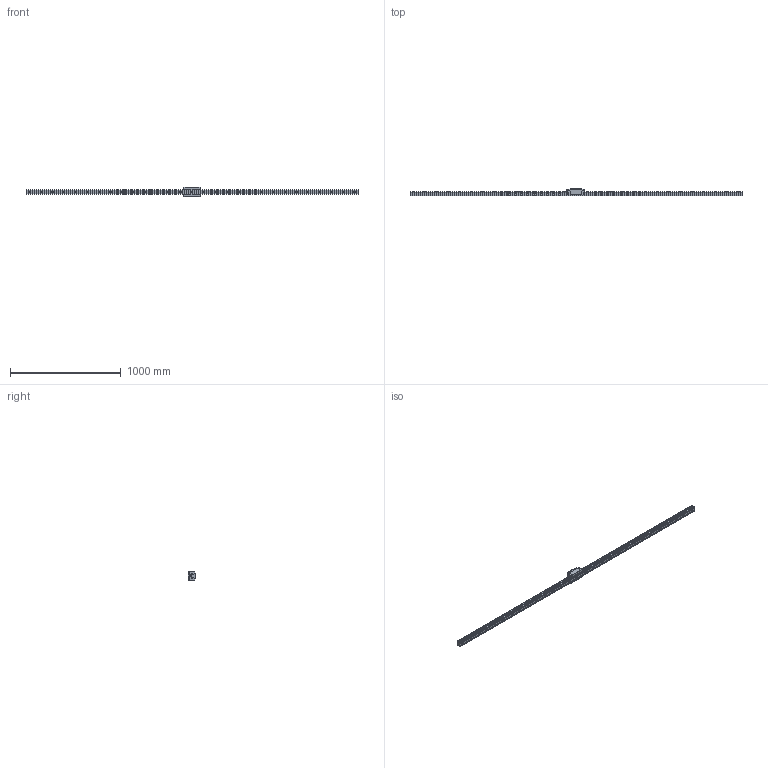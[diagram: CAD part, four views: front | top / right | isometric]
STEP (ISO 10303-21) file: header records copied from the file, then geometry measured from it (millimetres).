
FILE_DESCRIPTION(/* description */ ('STEP AP214'),/* implementation_level */ '2;1');
FILE_NAME(/* name */ 'HDR45R1SS-3000L_G30_0_B-PT18_1427-2_0_0_01',/* time_stamp */ '2023-06-30T12:30:39+02:00',/* author */ ('License CC BY-ND 4.0'),/* organization */ ('CADENAS'),/* preprocessor_version */ 'ST-DEVELOPER v19.3',/* originating_system */ 'PARTsolutions',/* authorisation */ ' ');
FILE_SCHEMA (('AUTOMOTIVE_DESIGN {1 0 10303 214 3 1 1}'));
Length unit declared in the file: millimetre
Products named in the file (4): HDR45R1SS-3000L_G30_0_B-PT18_1427-2_0_0_01; hsr_ftht_B-PT1/8_grease_nipple_joint; HDR45RSSB-PT1/81 Slider; HDR45R1300030 Rail
Assembly tree (3 placements, depth 2):
  HDR45R1SS-3000L_G30_0_B-PT18_1427-2_0_0_01
    hsr_ftht_B-PT1/8_grease_nipple_joint
    HDR45RSSB-PT1/81 Slider
    HDR45R1300030 Rail
Bounding box: 3000 x 70 x 86 mm (x, y, z)
Volume: 4683600.8 mm3; surface area: 641407.6 mm2
Topology: 3 solids, 3 shells, 304 faces, 742 edges, 483 vertices
Faces by surface type: plane 160, cylinder 115, cone 24, torus 3, sphere 2
Full cylindrical faces by diameter (mm): 5.2 x4, 8.376 x6, 9.6 x1, 10.2 x2, 12.5 x2, 14 x29, 20 x29
Entity records: 8620 total; most frequent: CARTESIAN_POINT 1537, DIRECTION 1470, ORIENTED_EDGE 1250, EDGE_CURVE 625, AXIS2_PLACEMENT_3D 564, FACE_BOUND 511, EDGE_LOOP 503, VERTEX_POINT 476
